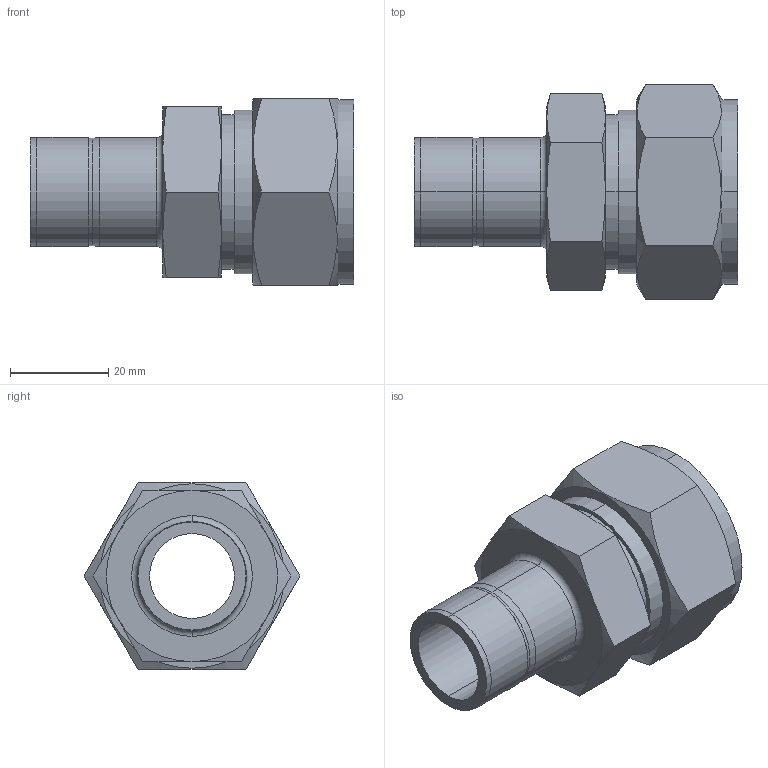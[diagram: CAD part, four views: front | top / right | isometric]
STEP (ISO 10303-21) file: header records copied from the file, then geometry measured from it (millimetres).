
FILE_DESCRIPTION (( 'STEP AP203' ), '1' );
FILE_NAME ('DRE16-14 SS.STEP', '2009-09-08T08:39:06', ( ' ' ), ( '' ), 'SwSTEP 2.0', 'SolidWorks 2008', '' );
FILE_SCHEMA (( 'CONFIG_CONTROL_DESIGN' ));
Length unit declared in the file: millimetre
Products named in the file (1): DRE16-14 SS
Bounding box: 65.9 x 43.99 x 38.1 mm (x, y, z)
Volume: 29119.3 mm3; surface area: 13384.3 mm2
Topology: 1 solids, 1 shells, 63 faces, 138 edges, 82 vertices
Faces by surface type: cone 24, plane 19, cylinder 18, torus 2
Entity records: 1997 total; most frequent: CARTESIAN_POINT 572, DIRECTION 282, ORIENTED_EDGE 276, EDGE_CURVE 138, AXIS2_PLACEMENT_3D 120, VERTEX_POINT 82, EDGE_LOOP 70, ADVANCED_FACE 63
